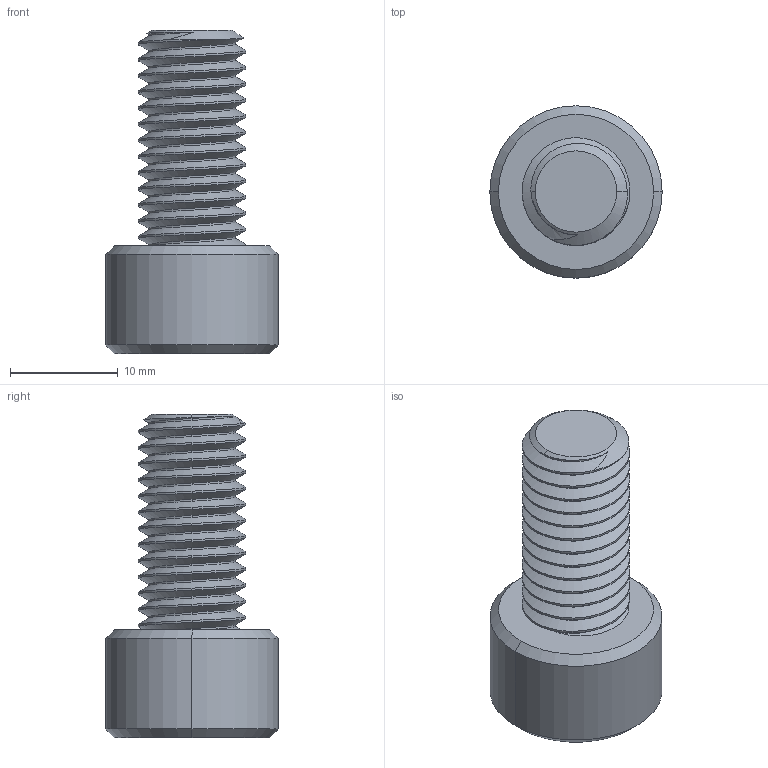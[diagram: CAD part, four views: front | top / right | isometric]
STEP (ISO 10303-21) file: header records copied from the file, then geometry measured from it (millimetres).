
FILE_DESCRIPTION (( 'STEP AP203' ), '1' );
FILE_NAME ('SOCKET HEAD CAP SCREW M10 x 1.5 mm Thread 20 mm Long.STEP', '2017-03-06T13:51:32', ( 'itdept' ), ( '' ), 'SwSTEP 2.0', 'SolidWorks 2016', '' );
FILE_SCHEMA (( 'CONFIG_CONTROL_DESIGN' ));
Length unit declared in the file: millimetre
Products named in the file (1): SOCKET HEAD CAP SCREW M10 x 1.5 mm Thread 20 mm Long
Bounding box: 16 x 16 x 30 mm (x, y, z)
Volume: 2924.7 mm3; surface area: 1986.9 mm2
Topology: 1 solids, 1 shells, 82 faces, 218 edges, 140 vertices
Faces by surface type: cylinder 57, cone 13, plane 10, bspline 2
Entity records: 4010 total; most frequent: CARTESIAN_POINT 2235, ORIENTED_EDGE 436, DIRECTION 282, EDGE_CURVE 218, VERTEX_POINT 140, AXIS2_PLACEMENT_3D 104, EDGE_LOOP 84, FACE_OUTER_BOUND 82
